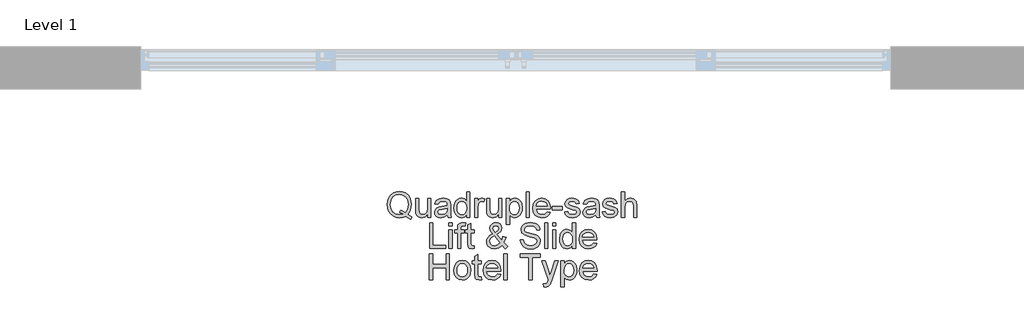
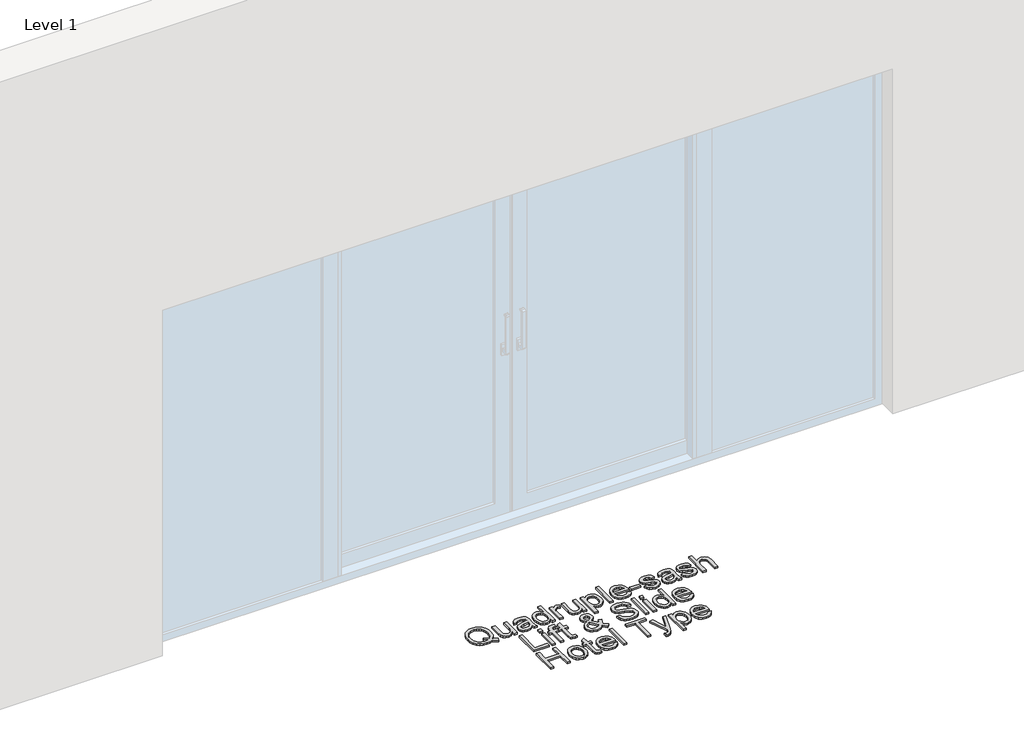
# One storey, part 12 of 17: 1 proxy.
"""IFC4 building model written with IfcOpenShell, lengths in millimetres."""

from ifc_helpers import new_model, si_unit, origin, origin_with_axes, place, context, project, spatial, polyline, outline, extrude, element, save

model = new_model("IFC4")

# Units and contexts
model_context = context("Model", 3, world=origin())
ifc_project = project(units=[si_unit("LENGTHUNIT", "METRE", prefix="MILLI")], contexts=[model_context])

# Site, building, storey
site = spatial("IfcSite", under=ifc_project)
building = spatial("IfcBuilding", under=site)
storey = spatial("IfcBuildingStorey", under=building, Name="Level 1", Elevation=0.0)

# Proxy
placement = place(None, origin())
element("IfcBuildingElementProxy", 1, Name="150mm Arial", ObjectType="150mm Arial", at=placement, inside=storey, context=model_context, shape_type="SweptSolid", body=[
    extrude(outline(polyline([(22295.8659523, -5879.5997474), (22319.226459, -5895.3083086), (22314.1496875, -5909.1038834), (22283.1372353, -5891.4823358), (22265.7088257, -5897.8834825), (22246.5329767, -5900.0171981), (22227.2651572, -5897.5569873), (22209.8551418, -5890.1763547), (22195.2732192, -5878.3397515), (22184.4896783, -5862.5116287), (22177.8264156, -5843.5611074), (22175.6053281, -5822.3573089), (22177.8218171, -5801.1351163), (22184.4712842, -5781.9086836), (22195.2134384, -5765.855233), (22209.707989, -5754.151987), (22227.0536251, -5747.0058793), (22246.3490357, -5744.6238433), (22265.7961977, -5747.0610616), (22283.2292058, -5754.3727162), (22297.7007637, -5766.0713637), (22308.2635755, -5781.6695603), (22314.7199045, -5800.3395715), (22316.8720142, -5821.2536629), (22311.6480899, -5854.1791015), (22305.0905933, -5867.8367206), (22295.8659523, -5879.5997474)]), holes=[polyline([(22251.7201129, -5854.5469835), (22267.5574328, -5860.534263), (22280.3413321, -5868.8575931), (22293.6126751, -5849.4334238), (22298.0364561, -5822.2101561), (22296.4729576, -5805.6324737), (22291.7824621, -5791.2896744), (22284.0799329, -5779.5450417), (22273.4803329, -5770.7618591), (22260.7010321, -5765.2850159), (22246.4594003, -5763.4594015), (22225.931585, -5767.152017), (22209.2297424, -5778.2298636), (22198.1381003, -5796.6377589), (22194.4408862, -5822.3205207), (22198.0967136, -5847.4514595), (22209.0641955, -5865.9697195), (22225.7154543, -5877.3786598), (22246.4226121, -5881.18164), (22266.6929101, -5877.318879), (22246.8640705, -5868.9679577), (22251.7201129, -5854.5469835)])]), origin_with_axes(), (0.0, 0.0, 1.0), 10.0),
    extrude(outline(polyline([(22413.4042498, -5897.6627533), (22413.4042498, -5878.6432542), (22398.6521817, -5894.6737121), (22379.4119534, -5900.0171981), (22361.6984353, -5896.2648018), (22349.4847531, -5886.8470227), (22343.8745527, -5872.9778715), (22342.7709067, -5855.4666885), (22342.7709067, -5787.0038492), (22361.6064648, -5787.0038492), (22361.6064648, -5846.6007324), (22362.746899, -5865.8041726), (22370.1965094, -5877.0797557), (22384.2312075, -5881.18164), (22399.9581628, -5876.9877852), (22410.3508292, -5865.5650493), (22413.4042498, -5844.5773814), (22413.4042498, -5787.0038492), (22432.2398079, -5787.0038492), (22432.2398079, -5897.6627533), (22413.4042498, -5897.6627533)])), origin_with_axes(), (0.0, 0.0, 1.0), 10.0),
    extrude(outline(polyline([(22528.7720434, -5883.5360847), (22510.5067024, -5896.30159), (22490.3283749, -5900.0171981), (22474.5876241, -5897.782315), (22462.9763486, -5891.0776656), (22455.8164453, -5880.8965314), (22453.4298108, -5868.2321937), (22457.0350544, -5853.3329729), (22466.5080158, -5842.5172423), (22479.6965853, -5836.3368247), (22495.9937577, -5833.5041334), (22528.6616788, -5827.0294103), (22528.7720434, -5822.8355555), (22527.4752594, -5814.4294519), (22523.5849073, -5808.9296161), (22514.8844981, -5804.846126), (22502.7627864, -5803.4849626), (22483.706499, -5807.1086002), (22474.6198138, -5819.966076), (22455.7842556, -5817.6116312), (22463.9328418, -5799.2175314), (22480.3403788, -5788.438589), (22505.1908076, -5784.6494044), (22528.0178854, -5787.9971306), (22540.9121493, -5796.4032342), (22546.6878966, -5809.1871335), (22547.6076016, -5825.6682469), (22547.6076016, -5849.10233), (22548.5640948, -5881.8254334), (22552.3164911, -5897.6627533), (22533.480933, -5897.6627533), (22528.7720434, -5883.5360847)]), holes=[polyline([(22528.7720434, -5845.8649684), (22498.3849906, -5851.6407157), (22482.1797888, -5854.6941363), (22474.8405429, -5859.6605432), (22472.265369, -5866.9078185), (22477.8755694, -5877.0981498), (22494.3382887, -5881.18164), (22513.394576, -5876.6750855), (22525.6818347, -5865.7673844), (22528.6616788, -5851.1992574), (22528.7720434, -5845.8649684)])]), origin_with_axes(), (0.0, 0.0, 1.0), 10.0),
    extrude(outline(polyline([(22641.7853924, -5897.6627533), (22641.7853924, -5879.894053), (22629.3233898, -5894.9864118), (22612.0973153, -5900.0171981), (22599.9204213, -5898.1961822), (22588.7735969, -5892.7331346), (22579.3374237, -5884.0097328), (22572.2924835, -5872.4076544), (22567.9054907, -5858.3959489), (22566.4431597, -5842.4436659), (22571.832631, -5812.4612833), (22578.5648715, -5800.5694978), (22587.9826506, -5791.8231033), (22599.3731968, -5786.4428292), (22612.023739, -5784.6494044), (22629.3877691, -5789.7813583), (22641.7853924, -5803.1170806), (22641.7853924, -5746.9782881), (22660.6209505, -5746.9782881), (22660.6209505, -5897.6627533), (22641.7853924, -5897.6627533)]), holes=[polyline([(22585.2787179, -5842.3700895), (22587.4032364, -5859.4076244), (22593.776792, -5871.5247376), (22603.0382212, -5878.7674144), (22613.8263607, -5881.18164), (22624.6099017, -5878.877779), (22633.6368062, -5871.966196), (22639.7482458, -5860.3181323), (22641.7853924, -5843.8048292), (22639.7114576, -5825.7510203), (22633.4896534, -5813.2338354), (22624.2328227, -5805.9221808), (22613.0538085, -5803.4849626), (22602.1553044, -5805.8256118), (22593.224969, -5812.8475594), (22587.2652807, -5824.9094903), (22585.2787179, -5842.3700895)])]), origin_with_axes(), (0.0, 0.0, 1.0), 10.0),
    extrude(outline(polyline([(22688.8742877, -5897.6627533), (22688.8742877, -5787.0038492), (22705.3554011, -5787.0038492), (22705.3554011, -5803.374598), (22717.0540486, -5788.2914362), (22728.8262724, -5784.6494044), (22747.735407, -5790.4619399), (22741.4446249, -5807.3477235), (22728.200873, -5803.4849626), (22717.5506893, -5807.2005707), (22710.7632665, -5817.5012666), (22707.7098459, -5839.5006099), (22707.7098459, -5897.6627533), (22688.8742877, -5897.6627533)])), origin_with_axes(), (0.0, 0.0, 1.0), 10.0),
    extrude(outline(polyline([(22830.1409739, -5897.6627533), (22830.1409739, -5878.6432542), (22815.3889059, -5894.6737121), (22796.1486775, -5900.0171981), (22778.4351595, -5896.2648018), (22766.2214772, -5886.8470227), (22760.6112768, -5872.9778715), (22759.5076308, -5855.4666885), (22759.5076308, -5787.0038492), (22778.343189, -5787.0038492), (22778.343189, -5846.6007324), (22779.4836232, -5865.8041726), (22786.9332336, -5877.0797557), (22800.9679317, -5881.18164), (22816.694887, -5876.9877852), (22827.0875533, -5865.5650493), (22830.1409739, -5844.5773814), (22830.1409739, -5787.0038492), (22848.976532, -5787.0038492), (22848.976532, -5897.6627533), (22830.1409739, -5897.6627533)])), origin_with_axes(), (0.0, 0.0, 1.0), 10.0),
    extrude(outline(polyline([(22874.8754245, -5940.0427592), (22874.8754245, -5787.0038492), (22893.7109827, -5787.0038492), (22893.7109827, -5805.4715254), (22906.7340053, -5789.8549347), (22924.3187647, -5784.6494044), (22937.0566787, -5786.4704203), (22948.1943061, -5791.9334679), (22957.2625973, -5800.7074535), (22963.7925027, -5812.4612833), (22969.0532153, -5841.4871727), (22967.5678917, -5857.5958055), (22963.111921, -5872.0029842), (22955.8278575, -5883.9775431), (22945.8582555, -5892.7883169), (22934.24698, -5898.2099778), (22922.0378963, -5900.0171981), (22905.6487534, -5895.1795499), (22893.7109827, -5882.9474735), (22893.7109827, -5940.0427592), (22874.8754245, -5940.0427592)]), holes=[polyline([(22893.7109827, -5843.2162181), (22895.7481292, -5860.1020016), (22901.8595689, -5871.9110137), (22910.8772763, -5878.8639834), (22921.6332261, -5881.18164), (22932.5639199, -5878.7812099), (22941.8115535, -5871.5799199), (22948.1161312, -5859.3386465), (22950.2176571, -5841.8182665), (22948.166715, -5825.0244534), (22942.0138886, -5813.0498945), (22933.0099768, -5805.8761955), (22922.4057783, -5803.4849626), (22911.760193, -5806.0279469), (22902.4113918, -5813.6568997), (22895.886085, -5826.1326979), (22893.7109827, -5843.2162181)])]), origin_with_axes(), (0.0, 0.0, 1.0), 10.0),
    extrude(outline(polyline([(22990.2432182, -5897.6627533), (22990.2432182, -5746.9782881), (23009.0787763, -5746.9782881), (23009.0787763, -5897.6627533), (22990.2432182, -5897.6627533)])), origin_with_axes(), (0.0, 0.0, 1.0), 10.0),
    extrude(outline(polyline([(23114.8080618, -5864.7005266), (23133.2757379, -5867.0549713), (23126.6216723, -5880.9701078), (23116.0036782, -5891.3719712), (23101.660879, -5897.8558914), (23083.8323978, -5900.0171981), (23061.7318869, -5896.2877944), (23044.7265417, -5885.0995832), (23033.8832199, -5867.1791315), (23030.2687793, -5843.2530063), (23033.9200081, -5818.5221391), (23044.8736945, -5800.0268718), (23061.6491135, -5788.4937713), (23082.76554, -5784.6494044), (23103.2243774, -5788.4845742), (23119.5721336, -5799.9900836), (23130.2912952, -5818.4485627), (23133.8643491, -5843.1426417), (23133.7539845, -5848.2194132), (23049.1043374, -5848.2194132), (23052.3646916, -5862.3184907), (23059.9384622, -5872.6835659), (23070.869156, -5879.0571214), (23084.2002798, -5881.18164), (23102.6679559, -5877.2453026), (23114.8080618, -5864.7005266)]), holes=[polyline([(23049.1043374, -5829.383855), (23115.028791, -5829.383855), (23112.4812081, -5819.4326471), (23107.4872101, -5812.3141305), (23096.5059325, -5805.6922545), (23082.6919636, -5803.4849626), (23069.9954362, -5805.2461976), (23059.4970038, -5810.5299028), (23052.1991447, -5818.765861), (23049.1043374, -5829.383855)])]), origin_with_axes(), (0.0, 0.0, 1.0), 10.0),
    extrude(outline(polyline([(23143.2821282, -5852.9283027), (23143.2821282, -5834.0927446), (23202.1432474, -5834.0927446), (23202.1432474, -5852.9283027), (23143.2821282, -5852.9283027)])), origin_with_axes(), (0.0, 0.0, 1.0), 10.0),
    extrude(outline(polyline([(23216.269916, -5864.7005266), (23235.1054742, -5862.3460818), (23238.0761213, -5870.4026975), (23243.8242775, -5876.3255976), (23263.8002698, -5881.18164), (23283.00371, -5876.7302678), (23289.2577039, -5866.2824192), (23287.6850083, -5861.4815591), (23282.9669218, -5857.8211333), (23263.5795406, -5852.4500561), (23235.2158388, -5843.2346122), (23222.8366096, -5832.4740638), (23218.6243608, -5817.2805374), (23222.0088752, -5803.2458393), (23231.2427132, -5792.5220791), (23243.2172722, -5786.9486669), (23259.4224741, -5784.6494044), (23282.3415224, -5788.3466185), (23296.9096494, -5798.3530087), (23303.3843725, -5815.2571864), (23284.5488143, -5817.6116312), (23277.4670859, -5807.2189648), (23260.894002, -5803.4849626), (23242.8677843, -5807.0534179), (23237.459919, -5815.367551), (23239.7039991, -5820.8489927), (23246.7305452, -5825.0060593), (23262.9541412, -5829.015973), (23290.6004732, -5837.8819291), (23303.4395548, -5847.9251076), (23308.093262, -5864.2958564), (23302.6302144, -5882.3220741), (23286.8664709, -5895.4002791), (23263.5427524, -5900.0171981), (23244.5508444, -5897.791512), (23230.6908902, -5891.1144538), (23221.4386581, -5880.0595999), (23216.269916, -5864.7005266)])), origin_with_axes(), (0.0, 0.0, 1.0), 10.0),
    extrude(outline(polyline([(23399.916608, -5883.5360847), (23381.651267, -5896.30159), (23361.4729395, -5900.0171981), (23345.7321887, -5897.782315), (23334.1209132, -5891.0776656), (23326.9610099, -5880.8965314), (23324.5743754, -5868.2321937), (23328.179619, -5853.3329729), (23337.6525803, -5842.5172423), (23350.8411499, -5836.3368247), (23367.1383223, -5833.5041334), (23399.8062434, -5827.0294103), (23399.916608, -5822.8355555), (23398.619824, -5814.4294519), (23394.7294719, -5808.9296161), (23386.0290627, -5804.846126), (23373.907351, -5803.4849626), (23354.8510636, -5807.1086002), (23345.7643783, -5819.966076), (23326.9288202, -5817.6116312), (23335.0774064, -5799.2175314), (23351.4849434, -5788.438589), (23376.3353721, -5784.6494044), (23399.1624499, -5787.9971306), (23412.0567139, -5796.4032342), (23417.8324612, -5809.1871335), (23418.7521662, -5825.6682469), (23418.7521662, -5849.10233), (23419.7086594, -5881.8254334), (23423.4610557, -5897.6627533), (23404.6254976, -5897.6627533), (23399.916608, -5883.5360847)]), holes=[polyline([(23399.916608, -5845.8649684), (23369.5295552, -5851.6407157), (23353.3243533, -5854.6941363), (23345.9851075, -5859.6605432), (23343.4099336, -5866.9078185), (23349.020134, -5877.0981498), (23365.4828533, -5881.18164), (23384.5391406, -5876.6750855), (23396.8263993, -5865.7673844), (23399.8062434, -5851.1992574), (23399.916608, -5845.8649684)])]), origin_with_axes(), (0.0, 0.0, 1.0), 10.0),
    extrude(outline(polyline([(23437.5877243, -5864.7005266), (23456.4232825, -5862.3460818), (23459.3939296, -5870.4026975), (23465.1420858, -5876.3255976), (23485.1180781, -5881.18164), (23504.3215183, -5876.7302678), (23510.5755122, -5866.2824192), (23509.0028166, -5861.4815591), (23504.2847301, -5857.8211333), (23484.8973489, -5852.4500561), (23456.5336471, -5843.2346122), (23444.1544179, -5832.4740638), (23439.9421691, -5817.2805374), (23443.3266835, -5803.2458393), (23452.5605215, -5792.5220791), (23464.5350805, -5786.9486669), (23480.7402824, -5784.6494044), (23503.6593307, -5788.3466185), (23518.2274577, -5798.3530087), (23524.7021808, -5815.2571864), (23505.8666226, -5817.6116312), (23498.7848942, -5807.2189648), (23482.2118103, -5803.4849626), (23464.1855926, -5807.0534179), (23458.7777272, -5815.367551), (23461.0218074, -5820.8489927), (23468.0483535, -5825.0060593), (23484.2719495, -5829.015973), (23511.9182815, -5837.8819291), (23524.7573631, -5847.9251076), (23529.4110703, -5864.2958564), (23523.9480227, -5882.3220741), (23508.1842792, -5895.4002791), (23484.8605607, -5900.0171981), (23465.8686527, -5897.791512), (23452.0086985, -5891.1144538), (23442.7564664, -5880.0595999), (23437.5877243, -5864.7005266)])), origin_with_axes(), (0.0, 0.0, 1.0), 10.0),
    extrude(outline(polyline([(23550.6010732, -5897.6627533), (23550.6010732, -5746.9782881), (23569.4366314, -5746.9782881), (23569.4366314, -5802.3813166), (23584.1243201, -5789.0823825), (23602.2149172, -5784.6494044), (23623.3681319, -5789.4870527), (23636.2072135, -5802.8595632), (23640.0699745, -5827.6180215), (23640.0699745, -5897.6627533), (23621.2344163, -5897.6627533), (23621.2344163, -5829.567796), (23619.7352972, -5817.7771781), (23615.2379398, -5809.7021683), (23607.9906645, -5805.039264), (23598.2417916, -5803.4849626), (23582.8091419, -5807.6788173), (23572.5084461, -5819.046371), (23569.4366314, -5838.8752105), (23569.4366314, -5897.6627533), (23550.6010732, -5897.6627533)])), origin_with_axes(), (0.0, 0.0, 1.0), 10.0),
    extrude(outline(polyline([(22423.9992512, -6080.6249801), (22423.9992512, -5929.9405149), (22442.8348094, -5929.9405149), (22442.8348094, -6061.789422), (22518.177042, -6061.789422), (22518.177042, -6080.6249801), (22423.9992512, -6080.6249801)])), origin_with_axes(), (0.0, 0.0, 1.0), 10.0),
    extrude(outline(polyline([(22537.0126001, -5948.776073), (22537.0126001, -5929.9405149), (22555.8481583, -5929.9405149), (22555.8481583, -5948.776073), (22537.0126001, -5948.776073)])), origin_with_axes(), (0.0, 0.0, 1.0), 10.0),
    extrude(outline(polyline([(22537.0126001, -6080.6249801), (22537.0126001, -5969.966076), (22555.8481583, -5969.966076), (22555.8481583, -6080.6249801), (22537.0126001, -6080.6249801)])), origin_with_axes(), (0.0, 0.0, 1.0), 10.0),
    extrude(outline(polyline([(22685.3426206, -6064.9164189), (22687.6970654, -6081.1768031), (22673.6071849, -6082.9794249), (22657.8250474, -6079.8524279), (22649.9523727, -6071.6486594), (22647.6715043, -6050.2747155), (22647.6715043, -5988.8016341), (22633.5448357, -5988.8016341), (22633.5448357, -5969.966076), (22647.6715043, -5969.966076), (22647.6715043, -5943.0739021), (22666.5070624, -5932.0006541), (22666.5070624, -5969.966076), (22685.3426206, -5969.966076), (22685.3426206, -5988.8016341), (22666.5070624, -5988.8016341), (22666.5070624, -6049.7228925), (22667.5003438, -6059.4349772), (22670.7193113, -6062.8746738), (22677.1388521, -6064.1438667), (22685.3426206, -6064.9164189)])), origin_with_axes(), (0.0, 0.0, 1.0), 10.0),
    extrude(outline(polyline([(22588.8103851, -6080.6249801), (22588.8103851, -5988.8016341), (22572.3292717, -5988.8016341), (22572.3292717, -5969.966076), (22588.8103851, -5969.966076), (22588.8103851, -5958.8192515), (22590.7969478, -5943.1106903), (22600.4354561, -5931.8902895), (22619.4181671, -5927.5860701), (22636.5982562, -5929.6462093), (22633.8391413, -5947.3045451), (22622.9866224, -5946.4216283), (22611.1224281, -5949.5486252), (22607.6459432, -5961.2104845), (22607.6459432, -5969.966076), (22628.8359461, -5969.966076), (22628.8359461, -5988.8016341), (22607.6459432, -5988.8016341), (22607.6459432, -6080.6249801), (22588.8103851, -6080.6249801)])), origin_with_axes(), (0.0, 0.0, 1.0), 10.0),
    extrude(outline(polyline([(22849.4547786, -6062.0101512), (22829.4787863, -6077.7371064), (22806.1182796, -6082.9794249), (22785.3329469, -6079.0982698), (22769.3300801, -6067.4548047), (22761.0803263, -6054.054703), (22758.3304084, -6039.1646793), (22760.5422989, -6025.9669127), (22767.1779704, -6014.1119154), (22778.2098317, -6003.6088844), (22793.6102918, -5994.4670168), (22780.4585104, -5975.4107295), (22777.1659666, -5961.2840609), (22779.7595347, -5948.5645409), (22787.5402388, -5937.6292486), (22799.2480833, -5930.0968647), (22813.6230723, -5927.5860701), (22827.2990855, -5929.9865001), (22838.2343778, -5937.1877902), (22845.4080767, -5947.7552005), (22847.7993097, -5960.2539913), (22846.0288776, -5970.7478252), (22840.7175813, -5980.4507128), (22819.472396, -5997.4836492), (22846.7324519, -6031.4391574), (22854.862644, -6010.5802482), (22873.6982021, -6014.6637384), (22860.3808739, -6045.6761906), (22883.1159812, -6068.4848743), (22868.9893126, -6082.9794249), (22849.4547786, -6062.0101512)]), holes=[polyline([(22809.9442524, -5985.6010608), (22825.4320844, -5973.9208074), (22828.9637515, -5962.8291653), (22824.3100443, -5951.0017591), (22812.6665791, -5946.4216283), (22800.7655966, -5950.9649709), (22796.0015247, -5962.0566131), (22797.6202055, -5968.9544005), (22802.5130361, -5976.6247401), (22809.9442524, -5985.6010608)]), polyline([(22836.8364262, -6048.4353055), (22803.2120118, -6006.4599699), (22782.5186496, -6022.2421075), (22777.1659666, -6036.6630817), (22778.9961795, -6045.5474319), (22784.4868183, -6054.7628758), (22793.3343803, -6061.798619), (22805.2353628, -6064.1438667), (22822.5442107, -6059.766071), (22836.8364262, -6048.4353055)])]), origin_with_axes(), (0.0, 0.0, 1.0), 10.0),
    extrude(outline(polyline([(22956.103769, -6028.8271952), (22974.9393272, -6028.8271952), (22981.0093801, -6047.6811474), (22995.8350245, -6059.6005241), (23018.422979, -6064.1438667), (23038.1046658, -6060.7041701), (23050.8149887, -6051.2496028), (23054.9904493, -6038.6128563), (23051.8634524, -6026.8590265), (23039.061159, -6018.3057701), (23011.6355562, -6011.1136771), (22982.1130261, -6001.8246567), (22966.0917652, -5987.8083527), (22960.8126586, -5969.0831592), (22962.4451349, -5958.0512978), (22967.342564, -5947.7643976), (22975.3761871, -5939.0455943), (22986.4172454, -5932.7180239), (23014.3394889, -5927.5860701), (23044.1379305, -5932.9571472), (23055.5606664, -5939.5882202), (23064.0035582, -5948.7392848), (23069.3470442, -5959.840124), (23071.4715627, -5972.3205207), (23052.6360046, -5972.3205207), (23049.1779138, -5961.0817258), (23041.9674267, -5952.9699278), (23030.7010406, -5948.0587031), (23015.0752529, -5946.4216283), (22999.0815831, -5948.040309), (22988.1095026, -5952.8963514), (22981.7635382, -5960.0424591), (22979.6482167, -5968.5313362), (22981.1473359, -5975.7694144), (22985.6446933, -5981.591147), (23016.399628, -5992.1125721), (23049.7297368, -6001.5671393), (23060.4672925, -6008.4005474), (23067.9582897, -6016.8342421), (23072.359078, -6026.7762531), (23073.8260075, -6038.1346097), (23072.1383488, -6049.7458851), (23067.0753729, -6060.6673819), (23058.8440132, -6070.0667668), (23047.6512035, -6077.1117071), (23034.191321, -6081.5124954), (23019.158743, -6082.9794249), (23000.7048624, -6081.3975323), (22985.5159346, -6076.6518546), (22973.4172154, -6068.7239976), (22964.2339611, -6057.5955672), (22958.3386522, -6044.0391157), (22956.103769, -6028.8271952)])), origin_with_axes(), (0.0, 0.0, 1.0), 10.0),
    extrude(outline(polyline([(23099.7249, -6080.6249801), (23099.7249, -5929.9405149), (23118.5604581, -5929.9405149), (23118.5604581, -6080.6249801), (23099.7249, -6080.6249801)])), origin_with_axes(), (0.0, 0.0, 1.0), 10.0),
    extrude(outline(polyline([(23146.8137953, -5948.776073), (23146.8137953, -5929.9405149), (23165.6493535, -5929.9405149), (23165.6493535, -5948.776073), (23146.8137953, -5948.776073)])), origin_with_axes(), (0.0, 0.0, 1.0), 10.0),
    extrude(outline(polyline([(23146.8137953, -6080.6249801), (23146.8137953, -5969.966076), (23165.6493535, -5969.966076), (23165.6493535, -6080.6249801), (23146.8137953, -6080.6249801)])), origin_with_axes(), (0.0, 0.0, 1.0), 10.0),
    extrude(outline(polyline([(23262.181589, -6080.6249801), (23262.181589, -6062.8562797), (23249.7195864, -6077.9486386), (23232.493512, -6082.9794249), (23220.316618, -6081.158409), (23209.1697935, -6075.6953614), (23199.7336203, -6066.9719596), (23192.6886801, -6055.3698811), (23188.3016873, -6041.3581756), (23186.8393564, -6025.4058926), (23192.2288276, -5995.42351), (23198.9610682, -5983.5317245), (23208.3788472, -5974.7853301), (23219.7693935, -5969.4050559), (23232.4199356, -5967.6116312), (23249.7839658, -5972.743585), (23262.181589, -5986.0793073), (23262.181589, -5929.9405149), (23281.0171472, -5929.9405149), (23281.0171472, -6080.6249801), (23262.181589, -6080.6249801)]), holes=[polyline([(23205.6749146, -6025.3323162), (23207.7994331, -6042.3698511), (23214.1729887, -6054.4869644), (23223.4344179, -6061.7296411), (23234.2225574, -6064.1438667), (23245.0060984, -6061.8400057), (23254.0330028, -6054.9284227), (23260.1444425, -6043.2803591), (23262.181589, -6026.767056), (23260.1076543, -6008.7132471), (23253.88585, -5996.1960622), (23244.6290193, -5988.8844076), (23233.4500052, -5986.4471893), (23222.5515011, -5988.7878385), (23213.6211657, -5995.8097861), (23207.6614773, -6007.871717), (23205.6749146, -6025.3323162)])]), origin_with_axes(), (0.0, 0.0, 1.0), 10.0),
    extrude(outline(polyline([(23386.7464326, -6047.6627533), (23405.2141088, -6050.0171981), (23398.5600432, -6063.9323346), (23387.9420491, -6074.334198), (23373.5992498, -6080.8181182), (23355.7707686, -6082.9794249), (23333.6702577, -6079.2500212), (23316.6649125, -6068.06181), (23305.8215907, -6050.1413583), (23302.2071501, -6026.215233), (23305.8583789, -6001.4843659), (23316.8120653, -5982.9890986), (23333.5874843, -5971.455998), (23354.7039108, -5967.6116312), (23375.1627483, -5971.446801), (23391.5105044, -5982.9523104), (23402.2296661, -6001.4107895), (23405.8027199, -6026.1048684), (23405.6923553, -6031.18164), (23321.0427083, -6031.18164), (23324.3030624, -6045.2807174), (23331.876833, -6055.6457926), (23342.8075268, -6062.0193482), (23356.1386506, -6064.1438667), (23374.6063268, -6060.2075294), (23386.7464326, -6047.6627533)]), holes=[polyline([(23321.0427083, -6012.3460818), (23386.9671618, -6012.3460818), (23384.419579, -6002.3948738), (23379.4255809, -5995.2763572), (23368.4443033, -5988.6544813), (23354.6303344, -5986.4471893), (23341.9338071, -5988.2084244), (23331.4353746, -5993.4921296), (23324.1375155, -6001.7280877), (23321.0427083, -6012.3460818)])]), origin_with_axes(), (0.0, 0.0, 1.0), 10.0),
    extrude(outline(polyline([(22422.8220288, -6263.5872069), (22422.8220288, -6112.9027417), (22441.657587, -6112.9027417), (22441.657587, -6174.1183057), (22521.7087091, -6174.1183057), (22521.7087091, -6112.9027417), (22540.5442673, -6112.9027417), (22540.5442673, -6263.5872069), (22521.7087091, -6263.5872069), (22521.7087091, -6192.9538638), (22441.657587, -6192.9538638), (22441.657587, -6263.5872069), (22422.8220288, -6263.5872069)])), origin_with_axes(), (0.0, 0.0, 1.0), 10.0),
    extrude(outline(polyline([(22566.4431597, -6208.2577548), (22570.5174528, -6181.5771131), (22582.7403321, -6162.8243284), (22597.841888, -6153.6364756), (22615.9232881, -6150.573858), (22635.7107409, -6154.3032617), (22651.5158711, -6165.4914729), (22661.8763478, -6183.2555747), (22665.3298401, -6206.7126504), (22663.8031298, -6225.7413466), (22659.2229989, -6240.2267002), (22651.7228048, -6251.0746205), (22641.4359045, -6259.191017), (22629.2176237, -6264.253993), (22615.9232881, -6265.9416516), (22595.896712, -6262.2260435), (22580.1099759, -6251.079219), (22569.8598638, -6232.9426367), (22566.4431597, -6208.2577548)]), holes=[polyline([(22585.2787179, -6208.2209666), (22587.4584187, -6225.2676986), (22593.9975212, -6237.4124029), (22603.8383646, -6244.6826709), (22615.9232881, -6247.1060935), (22627.9530293, -6244.6688753), (22637.7754786, -6237.3572206), (22644.3145811, -6225.0515679), (22646.4942819, -6207.6323554), (22644.3007855, -6191.0822642), (22637.7202963, -6179.1031067), (22627.8840515, -6171.8328388), (22615.9232881, -6169.4094161), (22603.8383646, -6171.8236417), (22593.9975212, -6179.0663185), (22587.4584187, -6191.1834317), (22585.2787179, -6208.2209666)])]), origin_with_axes(), (0.0, 0.0, 1.0), 10.0),
    extrude(outline(polyline([(22726.545404, -6247.8786457), (22728.8998488, -6264.1390299), (22714.8099684, -6265.9416516), (22699.0278308, -6262.8146547), (22691.1551561, -6254.6108862), (22688.8742877, -6233.2369423), (22688.8742877, -6171.7638609), (22674.7476191, -6171.7638609), (22674.7476191, -6152.9283027), (22688.8742877, -6152.9283027), (22688.8742877, -6126.0361289), (22707.7098459, -6114.9628808), (22707.7098459, -6152.9283027), (22726.545404, -6152.9283027), (22726.545404, -6171.7638609), (22707.7098459, -6171.7638609), (22707.7098459, -6232.6851193), (22708.7031273, -6242.397204), (22711.9220947, -6245.8369006), (22718.3416356, -6247.1060935), (22726.545404, -6247.8786457)])), origin_with_axes(), (0.0, 0.0, 1.0), 10.0),
    extrude(outline(polyline([(22822.8569104, -6230.6249801), (22841.3245865, -6232.9794249), (22834.670521, -6246.8945613), (22824.0525269, -6257.2964248), (22809.7097276, -6263.7803449), (22791.8812464, -6265.9416516), (22769.7807355, -6262.2122479), (22752.7753903, -6251.0240367), (22741.9320685, -6233.1035851), (22738.3176279, -6209.1774598), (22741.9688567, -6184.4465927), (22752.9225431, -6165.9513254), (22769.6979621, -6154.4182248), (22790.8143886, -6150.573858), (22811.2732261, -6154.4090278), (22827.6209822, -6165.9145372), (22838.3401439, -6184.3730163), (22841.9131977, -6209.0670952), (22841.8028331, -6214.1438667), (22757.153186, -6214.1438667), (22760.4135402, -6228.2429442), (22767.9873108, -6238.6080194), (22778.9180046, -6244.981575), (22792.2491284, -6247.1060935), (22810.7168045, -6243.1697561), (22822.8569104, -6230.6249801)]), holes=[polyline([(22757.153186, -6195.3083086), (22823.0776396, -6195.3083086), (22820.5300568, -6185.3571006), (22815.5360587, -6178.238584), (22804.5547811, -6171.6167081), (22790.7408122, -6169.4094161), (22778.0442848, -6171.1706512), (22767.5458524, -6176.4543563), (22760.2479933, -6184.6903145), (22757.153186, -6195.3083086)])]), origin_with_axes(), (0.0, 0.0, 1.0), 10.0),
    extrude(outline(polyline([(22860.7487559, -6263.5872069), (22860.7487559, -6112.9027417), (22879.584314, -6112.9027417), (22879.584314, -6263.5872069), (22860.7487559, -6263.5872069)])), origin_with_axes(), (0.0, 0.0, 1.0), 10.0),
    extrude(outline(polyline([(23006.7243316, -6263.5872069), (23006.7243316, -6131.7382998), (22957.2809914, -6131.7382998), (22957.2809914, -6112.9027417), (23075.0032299, -6112.9027417), (23075.0032299, -6131.7382998), (23025.5598897, -6131.7382998), (23025.5598897, -6263.5872069), (23006.7243316, -6263.5872069)])), origin_with_axes(), (0.0, 0.0, 1.0), 10.0),
    extrude(outline(polyline([(23093.838788, -6305.9672127), (23091.4843433, -6287.8306304), (23101.0492751, -6289.4860993), (23109.9888076, -6287.4075661), (23115.4702494, -6281.6134246), (23120.6205973, -6267.7442734), (23122.0921253, -6263.1825367), (23082.0665642, -6152.9283027), (23101.9321919, -6152.9283027), (23123.158983, -6214.3645959), (23130.5534112, -6238.9391132), (23137.9478393, -6217.2340755), (23159.7632416, -6152.9283027), (23179.4817165, -6152.9283027), (23140.9644716, -6266.2359572), (23130.9580813, -6290.8104745), (23120.0319861, -6304.0910145), (23105.3534945, -6308.3216575), (23093.838788, -6305.9672127)])), origin_with_axes(), (0.0, 0.0, 1.0), 10.0),
    extrude(outline(polyline([(23195.0799131, -6305.9672127), (23195.0799131, -6152.9283027), (23213.9154713, -6152.9283027), (23213.9154713, -6171.3959789), (23226.9384939, -6155.7793882), (23244.5232533, -6150.573858), (23257.2611673, -6152.3948738), (23268.3987947, -6157.8579215), (23277.4670859, -6166.631907), (23283.9969913, -6178.3857368), (23289.2577039, -6207.4116262), (23287.7723803, -6223.5202591), (23283.3164096, -6237.9274377), (23276.0323461, -6249.9019967), (23266.0627441, -6258.7127704), (23254.4514686, -6264.1344313), (23242.2423849, -6265.9416516), (23225.853242, -6261.1040034), (23213.9154713, -6248.8719271), (23213.9154713, -6305.9672127), (23195.0799131, -6305.9672127)]), holes=[polyline([(23213.9154713, -6209.1406716), (23215.9526178, -6226.0264552), (23222.0640575, -6237.8354672), (23231.0817649, -6244.7884369), (23241.8377147, -6247.1060935), (23252.7684085, -6244.7056635), (23262.0160421, -6237.5043734), (23268.3206198, -6225.2631), (23270.4221457, -6207.74272), (23268.3712036, -6190.9489069), (23262.2183772, -6178.974348), (23253.2144654, -6171.8006491), (23242.6102669, -6169.4094161), (23231.9646816, -6171.9524004), (23222.6158804, -6179.5813533), (23216.0905736, -6192.0571514), (23213.9154713, -6209.1406716)])]), origin_with_axes(), (0.0, 0.0, 1.0), 10.0),
    extrude(outline(polyline([(23387.923655, -6230.6249801), (23406.3913311, -6232.9794249), (23399.7372655, -6246.8945613), (23389.1192715, -6257.2964248), (23374.7764722, -6263.7803449), (23356.947991, -6265.9416516), (23334.8474801, -6262.2122479), (23317.8421349, -6251.0240367), (23306.9988131, -6233.1035851), (23303.3843725, -6209.1774598), (23307.0356013, -6184.4465927), (23317.9892877, -6165.9513254), (23334.7647067, -6154.4182248), (23355.8811332, -6150.573858), (23376.3399707, -6154.4090278), (23392.6877268, -6165.9145372), (23403.4068885, -6184.3730163), (23406.9799423, -6209.0670952), (23406.8695777, -6214.1438667), (23322.2199306, -6214.1438667), (23325.4802848, -6228.2429442), (23333.0540554, -6238.6080194), (23343.9847492, -6244.981575), (23357.315873, -6247.1060935), (23375.7835491, -6243.1697561), (23387.923655, -6230.6249801)]), holes=[polyline([(23322.2199306, -6195.3083086), (23388.1443842, -6195.3083086), (23385.5968014, -6185.3571006), (23380.6028033, -6178.238584), (23369.6215257, -6171.6167081), (23355.8075568, -6169.4094161), (23343.1110294, -6171.1706512), (23332.612597, -6176.4543563), (23325.3147379, -6184.6903145), (23322.2199306, -6195.3083086)])]), origin_with_axes(), (0.0, 0.0, 1.0), 10.0),
])

save(model, "model.ifc")
